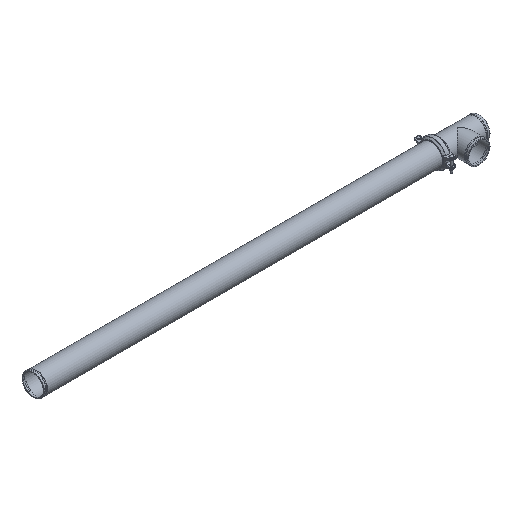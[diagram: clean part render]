
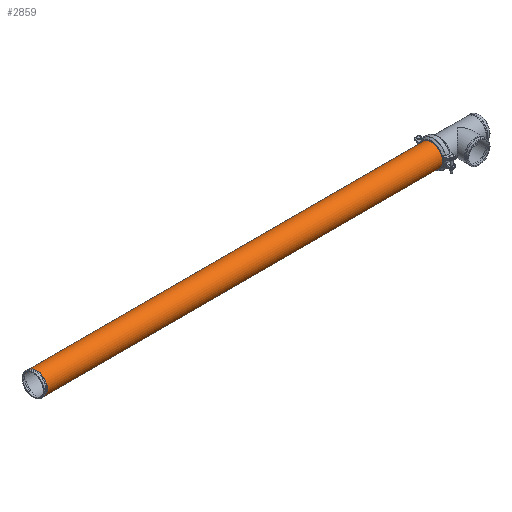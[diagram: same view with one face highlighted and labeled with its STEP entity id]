
A CAD part, isometric view. The second image highlights one B-rep face of the part: STEP entity #2859.
In plain terms, the highlighted cylindrical face has radius 84.138 mm (diameter 168.275 mm), a full revolution.
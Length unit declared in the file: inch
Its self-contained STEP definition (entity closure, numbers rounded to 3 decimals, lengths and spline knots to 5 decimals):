
#371=FACE_OUTER_BOUND('',#556,.T.);
#556=EDGE_LOOP('',(#2450,#2451,#2452,#2453,#2454,#2455));
#737=LINE('',#5487,#910);
#910=VECTOR('',#4106,3.3125);
#1047=CIRCLE('',#3276,3.3125);
#1048=CIRCLE('',#3277,3.3125);
#1049=CIRCLE('',#3279,3.3125);
#1050=CIRCLE('',#3280,3.3125);
#1311=VERTEX_POINT('',#5478);
#1312=VERTEX_POINT('',#5479);
#1313=VERTEX_POINT('',#5483);
#1314=VERTEX_POINT('',#5484);
#1695=EDGE_CURVE('',#1311,#1312,#1047,.T.);
#1696=EDGE_CURVE('',#1312,#1311,#1048,.T.);
#1697=EDGE_CURVE('',#1313,#1314,#1049,.T.);
#1698=EDGE_CURVE('',#1314,#1313,#1050,.T.);
#1699=EDGE_CURVE('',#1314,#1312,#737,.T.);
#2450=ORIENTED_EDGE('',*,*,#1697,.F.);
#2451=ORIENTED_EDGE('',*,*,#1698,.F.);
#2452=ORIENTED_EDGE('',*,*,#1699,.T.);
#2453=ORIENTED_EDGE('',*,*,#1696,.T.);
#2454=ORIENTED_EDGE('',*,*,#1695,.T.);
#2455=ORIENTED_EDGE('',*,*,#1699,.F.);
#2552=CYLINDRICAL_SURFACE('',#3278,3.3125);
#2859=ADVANCED_FACE('',(#371),#2552,.T.);
#3276=AXIS2_PLACEMENT_3D('',#5480,#4096,#4097);
#3277=AXIS2_PLACEMENT_3D('',#5481,#4098,#4099);
#3278=AXIS2_PLACEMENT_3D('',#5482,#4100,#4101);
#3279=AXIS2_PLACEMENT_3D('',#5485,#4102,#4103);
#3280=AXIS2_PLACEMENT_3D('',#5486,#4104,#4105);
#4096=DIRECTION('center_axis',(1.,0.,0.));
#4097=DIRECTION('ref_axis',(0.,0.,-1.));
#4098=DIRECTION('center_axis',(1.,0.,0.));
#4099=DIRECTION('ref_axis',(0.,0.,-1.));
#4100=DIRECTION('center_axis',(1.,0.,0.));
#4101=DIRECTION('ref_axis',(0.,1.,0.));
#4102=DIRECTION('center_axis',(1.,0.,0.));
#4103=DIRECTION('ref_axis',(0.,0.,-1.));
#4104=DIRECTION('center_axis',(1.,0.,0.));
#4105=DIRECTION('ref_axis',(0.,0.,-1.));
#4106=DIRECTION('',(-1.,0.,0.));
#5478=CARTESIAN_POINT('',(-59.031,3.3125,0.));
#5479=CARTESIAN_POINT('',(-59.031,-3.3125,0.));
#5480=CARTESIAN_POINT('Origin',(-59.031,0.,0.));
#5481=CARTESIAN_POINT('Origin',(-59.031,0.,0.));
#5482=CARTESIAN_POINT('Origin',(0.,0.,0.));
#5483=CARTESIAN_POINT('',(59.031,3.3125,0.));
#5484=CARTESIAN_POINT('',(59.031,-3.3125,0.));
#5485=CARTESIAN_POINT('Origin',(59.031,0.,0.));
#5486=CARTESIAN_POINT('Origin',(59.031,0.,0.));
#5487=CARTESIAN_POINT('',(0.,-3.3125,0.));
